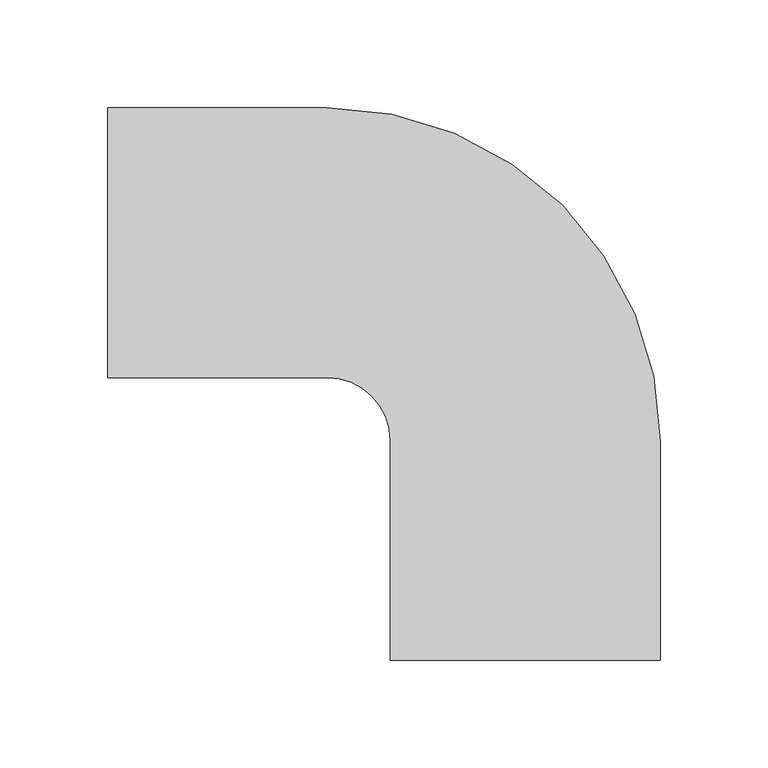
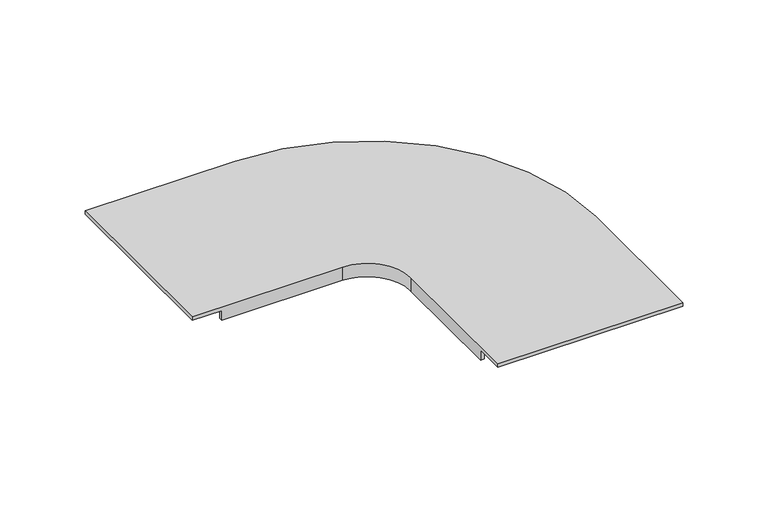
"""IFC4 building model written with IfcOpenShell, lengths in millimetres: cable carrier fitting geometry, CCT_Hyperline_FBTR-ELB90-CVR_Крышка на горизонтальный изгиб на 90°пластиковый : Крышка на горизонтальный изгиб на 90° пластиковый."""

import ifcopenshell
import ifcopenshell.guid

model = None  # the IFC model being written
_history = None  # IfcOwnerHistory: only IFC2X3 demands one
_inside = {}  # id of a spatial element -> (the spatial element, [elements in it])
_under = {}  # id of a project, library or spatial element -> (it, [spatial elements below it])
_declared = {}  # id of a project -> (the project, [libraries it declares])
_typed = {}  # id of a type object -> (the type object, [elements of that type])
_made_of = {}  # id of a material, layer set ... -> (it, [elements and type objects made of it])


def new_model(schema):
    """Start an empty IFC model of exactly this schema.

    Asked for "IFC4X3", IfcOpenShell would pick the latest addendum, in which some entities
    have other attributes; the version numbers below select the first issue.
    IFC2X3 requires an IfcOwnerHistory on every rooted entity: one is made here for all.
    """
    global model, _history
    if schema == "IFC4X3":
        model = ifcopenshell.file(schema_version=(4, 3, 0, 0))
    else:
        model = ifcopenshell.file(schema=schema)
    _inside.clear()
    _under.clear()
    _declared.clear()
    _typed.clear()
    _made_of.clear()
    _history = None
    if model.schema == "IFC2X3":
        org = make("IfcOrganization", Name="unknown")
        user = make(
            "IfcPersonAndOrganization",
            ThePerson=make("IfcPerson", FamilyName="unknown"),
            TheOrganization=org,
        )
        app = make(
            "IfcApplication",
            ApplicationDeveloper=org,
            Version="unknown",
            ApplicationFullName="unknown",
            ApplicationIdentifier="unknown",
        )
        _history = make(
            "IfcOwnerHistory",
            OwningUser=user,
            OwningApplication=app,
            ChangeAction="ADDED",
            CreationDate=0,
        )
    return model


def make(cls, **values):
    """One entity of the class cls with the attributes given. An attribute that is None is left unset."""
    return model.create_entity(
        cls, **{name: value for name, value in values.items() if value is not None}
    )


def rooted(cls, **values):
    """An entity with a GlobalId (a new one), such as an element, a storey or a relation."""
    return make(cls, GlobalId=ifcopenshell.guid.new(), OwnerHistory=_history, **values)


def si_unit(unit_type, name, prefix=None):
    """IfcSIUnit, for example si_unit("LENGTHUNIT", "METRE", prefix="MILLI")."""
    return make("IfcSIUnit", UnitType=unit_type, Prefix=prefix, Name=name)


def assignment(units):
    """IfcUnitAssignment: the units of a project."""
    return None if units is None else make("IfcUnitAssignment", Units=units)


def point(xyz):
    """IfcCartesianPoint."""
    return None if xyz is None else make("IfcCartesianPoint", Coordinates=xyz)


def direction(xyz):
    """IfcDirection."""
    return None if xyz is None else make("IfcDirection", DirectionRatios=xyz)


def frame(location, z_axis=None, x_axis=None):
    """IfcAxis2Placement3D, a coordinate frame: its origin and axes. An axis left out is left unset."""
    return make(
        "IfcAxis2Placement3D",
        Location=point(location),
        Axis=direction(z_axis),
        RefDirection=direction(x_axis),
    )


def origin():
    """The frame at (0, 0, 0) with its axes left unset."""
    return frame((0.0, 0.0, 0.0))


def place(relative_to, where):
    """IfcLocalPlacement: puts the frame where relative to a parent placement (None: the world)."""
    return make(
        "IfcLocalPlacement", PlacementRelTo=relative_to, RelativePlacement=where
    )


def context(
    kind, dimensions, precision=None, world=None, true_north=None, identifier=None
):
    """IfcGeometricRepresentationContext, for example the 3D "Model" context."""
    return make(
        "IfcGeometricRepresentationContext",
        ContextIdentifier=identifier,
        ContextType=kind,
        CoordinateSpaceDimension=dimensions,
        Precision=precision,
        WorldCoordinateSystem=world,
        TrueNorth=true_north,
    )


def project(units=None, contexts=None):
    """IfcProject with its units and contexts."""
    return rooted(
        "IfcProject",
        Name="project",
        RepresentationContexts=contexts,
        UnitsInContext=assignment(units),
    )


def spatial(cls, under=None, at=None, **own):
    """A site, building, storey or space (cls), placed at a placement, below another one or the project."""
    s = rooted(cls, ObjectPlacement=at, **own)
    if under is not None:
        _under.setdefault(under.id(), (under, []))[1].append(s)
    return s


def polyline(points):
    """IfcPolyline through the points."""
    return make("IfcPolyline", Points=[point(p) for p in points])


def circle_curve(where, radius):
    """IfcCircle in the frame where."""
    return make("IfcCircle", Position=where, Radius=radius)


def shape(context_of_items, identifier, shape_type, items):
    """IfcShapeRepresentation: the items that make up one representation, for example the "Body"."""
    return make(
        "IfcShapeRepresentation",
        ContextOfItems=context_of_items,
        RepresentationIdentifier=identifier,
        RepresentationType=shape_type,
        Items=items,
    )


def source(mapping_origin, context_of_items, identifier, shape_type, items):
    """IfcRepresentationMap: a shape defined once, which mapped items show again and again."""
    return make(
        "IfcRepresentationMap",
        MappingOrigin=mapping_origin,
        MappedRepresentation=shape(context_of_items, identifier, shape_type, items),
    )


def transform(
    local_origin,
    x_axis=None,
    y_axis=None,
    z_axis=None,
    scale=None,
    scale2=None,
    scale3=None,
    uniform=True,
):
    """IfcCartesianTransformationOperator3D, or its non-uniform kind. x_axis, y_axis, z_axis: its Axis1, 2, 3."""
    if uniform:
        return make(
            "IfcCartesianTransformationOperator3D",
            Axis1=direction(x_axis),
            Axis2=direction(y_axis),
            LocalOrigin=point(local_origin),
            Scale=scale,
            Axis3=direction(z_axis),
        )
    return make(
        "IfcCartesianTransformationOperator3DnonUniform",
        Axis1=direction(x_axis),
        Axis2=direction(y_axis),
        LocalOrigin=point(local_origin),
        Scale=scale,
        Axis3=direction(z_axis),
        Scale2=scale2,
        Scale3=scale3,
    )


def mapped(mapping_source, mapping_target):
    """IfcMappedItem: shows the shape of a source again, moved by a transform."""
    return make(
        "IfcMappedItem", MappingSource=mapping_source, MappingTarget=mapping_target
    )


def made_of(thing, what):
    """Note that an element or type object is made of a material, layer set ...; save() writes the relation."""
    if what is not None:
        _made_of.setdefault(what.id(), (what, []))[1].append(thing)
    return thing


def element(
    cls,
    number,
    at=None,
    inside=None,
    cuts=None,
    type_object=None,
    material=None,
    context=None,
    identifier="Body",
    shape_type=None,
    held_by="IfcProductDefinitionShape",
    body=None,
    shapes=None,
    **own,
):
    """One element of the class cls, such as IfcWall. Its Tag is "e" and its number.

    at: its placement. inside: the storey or other place that contains it. cuts: it is an
    opening in that element (IfcRelVoidsElement). A single representation is given by context,
    identifier, shape_type and body (its items); several are given by shapes. held_by: the class
    of the entity that holds the representations. save() writes the other relations.
    """
    e = rooted(cls, Tag="e%d" % number, ObjectPlacement=at, **own)
    if body is not None:
        shapes = [shape(context, identifier, shape_type, body)]
    if shapes is not None:
        e.Representation = make(held_by, Representations=shapes)
    if inside is not None:
        _inside.setdefault(inside.id(), (inside, []))[1].append(e)
    if cuts is not None:
        rooted(
            "IfcRelVoidsElement", RelatingBuildingElement=cuts, RelatedOpeningElement=e
        )
    if type_object is not None:
        _typed.setdefault(type_object.id(), (type_object, []))[1].append(e)
    return made_of(e, material)


def aggregate(whole, parts):
    """IfcRelAggregates: a whole, such as a stair, and the parts it consists of."""
    return rooted("IfcRelAggregates", RelatingObject=whole, RelatedObjects=parts)


def save(model, path):
    """Write the relations noted so far, then the file.

    IfcRelAggregates (storeys below a building ...), IfcRelContainedInSpatialStructure (elements
    in a storey), IfcRelDefinesByType, IfcRelAssociatesMaterial and IfcRelDeclares: one each for
    every whole, place, type object, material and project.
    """
    for whole, parts in _under.values():
        aggregate(whole, parts)
    for where, things in _inside.values():
        rooted(
            "IfcRelContainedInSpatialStructure",
            RelatedElements=things,
            RelatingStructure=where,
        )
    for kind, things in _typed.values():
        rooted("IfcRelDefinesByType", RelatedObjects=things, RelatingType=kind)
    for what, things in _made_of.values():
        rooted("IfcRelAssociatesMaterial", RelatedObjects=things, RelatingMaterial=what)
    for by, libraries in _declared.values():
        rooted("IfcRelDeclares", RelatingContext=by, RelatedDefinitions=libraries)
    model.write(path)


def plane_surface(at):
    """IfcPlane: the flat surface through the origin of the frame at, square to its z axis."""
    return make("IfcPlane", Position=at)


def cylinder_surface(at, radius):
    """IfcCylindricalSurface: all points at the distance radius from the z axis of the frame at."""
    return make("IfcCylindricalSurface", Position=at, Radius=radius)


def revolved_surface(curve, axis_point, axis_direction):
    """IfcSurfaceOfRevolution: the curve turned about the line through axis_point along axis_direction."""
    return make(
        "IfcSurfaceOfRevolution",
        SweptCurve=make("IfcArbitraryOpenProfileDef", ProfileType="CURVE", Curve=curve),
        AxisPosition=make("IfcAxis1Placement", Location=point(axis_point), Axis=direction(axis_direction)),
    )


def advanced_brep(points, edges, surfaces, faces):
    """IfcAdvancedBrep: a solid bounded by faces that lie on surfaces and meet in shared edges.

    An edge is (start, end): straight between two places in points (the first is 0);
    or (start, end, curve); or (start, end, curve, False) where it runs against its curve.
    A face is (place in surfaces, loops), or (place, loops, False) where it looks against
    its surface's normal. A loop lists edges by number (the first is 1), with a minus sign
    where the edge is run from its end to its start. The first loop is the outer one.
    """
    corners = [point(p) for p in points]
    vertices = [make("IfcVertexPoint", VertexGeometry=c) for c in corners]
    made = []
    for start, end, *more in edges:
        made.append(
            make(
                "IfcEdgeCurve",
                EdgeStart=vertices[start],
                EdgeEnd=vertices[end],
                EdgeGeometry=more[0] if more else make("IfcPolyline", Points=[corners[start], corners[end]]),
                SameSense=more[1] if len(more) > 1 else True,
            )
        )
    hull = []
    for where, loops, *sense in faces:
        bounds = []
        for j, loop in enumerate(loops):
            ring = [make("IfcOrientedEdge", EdgeElement=made[abs(k) - 1], Orientation=k > 0) for k in loop]
            bounds.append(
                make(
                    "IfcFaceOuterBound" if j == 0 else "IfcFaceBound",
                    Bound=make("IfcEdgeLoop", EdgeList=ring),
                    Orientation=True,
                )
            )
        hull.append(make("IfcAdvancedFace", Bounds=bounds, FaceSurface=surfaces[where], SameSense=sense[0] if sense else True))
    return make("IfcAdvancedBrep", Outer=make("IfcClosedShell", CfsFaces=hull))


def cable_carrier_fitting_16fe6e49(model_context):
    return source(origin(), model_context, "Body", "AdvancedBrep", [
        advanced_brep(
        [(-103.2249258, 100.0558071, 52.54), (-103.2249258, 225.1358071, 52.54), (-103.2249258, 225.1358071, 50.0), (-103.2249258, 100.0558071, 50.0), (-1.7249258, 100.0558071, 52.54), (27.7350742, 70.5958071, 52.54), (27.7350742, -30.9041929, 52.54), (152.8150742, -30.9041929, 52.54), (152.8150742, 70.5958071, 52.54), (-1.7249258, 225.1358071, 52.54), (-1.7249258, 222.5958071, 50.0), (150.2750742, 70.5958071, 50.0), (150.2750742, -10.9041929, 50.0), (152.8150742, -10.9041929, 50.0), (152.8150742, -30.9041929, 50.0), (27.7350742, -30.9041929, 50.0), (27.7350742, -10.9041929, 50.0), (30.2750742, -10.9041929, 50.0), (30.2750742, 70.5958071, 50.0), (-1.7249258, 102.5958071, 50.0), (-83.2249258, 102.5958071, 50.0), (-83.2249258, 100.0558071, 50.0), (-83.2249258, 225.1358071, 50.0), (-83.2249258, 222.5958071, 50.0), (-1.7249258, 102.5958071, 43.0), (-83.2249258, 102.5958071, 43.0), (30.2750742, 70.5958071, 43.0), (30.2750742, -10.9041929, 43.0), (27.7350742, -10.9041929, 43.0), (27.7350742, 70.5958071, 43.0), (-1.7249258, 100.0558071, 43.0), (-83.2249258, 100.0558071, 43.0), (-1.7249258, 225.1358071, 43.0), (-83.2249258, 225.1358071, 43.0), (152.8150742, 70.5958071, 43.0), (152.8150742, -10.9041929, 43.0), (150.2750742, -10.9041929, 43.0), (150.2750742, 70.5958071, 43.0), (-1.7249258, 222.5958071, 43.0), (-83.2249258, 222.5958071, 43.0)],
        [
            (0, 1),
            (1, 2),
            (2, 3),
            (3, 0),
            (0, 4),
            (4, 5, circle_curve(frame((-1.7249258, 70.5958071, 52.54), z_axis=(0.0, 0.0, -1.0), x_axis=(0.0, 1.0, 0.0)), 29.46)),
            (5, 6),
            (6, 7),
            (7, 8),
            (8, 9, circle_curve(frame((-1.7249258, 70.5958071, 52.54), z_axis=(0.0, 0.0, 1.0), x_axis=(0.0, 1.0, 0.0)), 154.54)),
            (9, 1),
            (10, 11, circle_curve(frame((-1.7249258, 70.5958071, 50.0), z_axis=(0.0, 0.0, -1.0), x_axis=(0.0, 1.0, 0.0)), 152.0)),
            (11, 12),
            (12, 13),
            (13, 14),
            (14, 15),
            (15, 16),
            (16, 17),
            (17, 18),
            (18, 19, circle_curve(frame((-1.7249258, 70.5958071, 50.0), z_axis=(0.0, 0.0, 1.0), x_axis=(0.0, 1.0, 0.0)), 32.0)),
            (19, 20),
            (20, 21),
            (21, 3),
            (2, 22),
            (22, 23),
            (23, 10),
            (19, 24),
            (24, 25),
            (25, 20),
            (24, 26, circle_curve(frame((-1.7249258, 70.5958071, 43.0), z_axis=(0.0, 0.0, -1.0), x_axis=(0.0, 1.0, 0.0)), 32.0)),
            (26, 27),
            (27, 28),
            (28, 29),
            (29, 30, circle_curve(frame((-1.7249258, 70.5958071, 43.0), z_axis=(0.0, 0.0, 1.0), x_axis=(0.0, 1.0, 0.0)), 29.46)),
            (30, 31),
            (31, 25),
            (21, 31),
            (30, 4),
            (18, 26),
            (29, 5),
            (6, 15),
            (14, 7),
            (17, 27),
            (28, 16),
            (9, 32),
            (32, 33),
            (33, 22),
            (32, 34, circle_curve(frame((-1.7249258, 70.5958071, 43.0), z_axis=(0.0, 0.0, -1.0), x_axis=(0.0, 1.0, 0.0)), 154.54)),
            (34, 35),
            (35, 36),
            (36, 37),
            (37, 38, circle_curve(frame((-1.7249258, 70.5958071, 43.0), z_axis=(0.0, 0.0, 1.0), x_axis=(0.0, 1.0, 0.0)), 152.0)),
            (38, 39),
            (39, 33),
            (38, 10),
            (23, 39),
            (8, 34),
            (37, 11),
            (13, 35),
            (36, 12),
        ],
        [
            plane_surface(frame((-103.2249258, 102.5958071, 25.0), z_axis=(-1.0, 0.0, 0.0), x_axis=(0.0, 0.0, 1.0))),
            plane_surface(frame((-103.2249258, 100.0558071, 52.54), z_axis=(0.0, 0.0, 1.0), x_axis=(1.0, 0.0, 0.0))),
            plane_surface(frame((-103.2249258, 222.5958071, 50.0), z_axis=(0.0, 0.0, -1.0), x_axis=(1.0, 0.0, 0.0))),
            plane_surface(frame((-103.2249258, 102.5958071, 50.0), z_axis=(0.0, 1.0, 0.0), x_axis=(1.0, 0.0, 0.0))),
            plane_surface(frame((-103.2249258, 102.5958071, 43.0), z_axis=(0.0, 0.0, -1.0), x_axis=(1.0, 0.0, 0.0))),
            plane_surface(frame((-103.2249258, 100.0558071, 43.0), z_axis=(0.0, -1.0, 0.0), x_axis=(1.0, 0.0, 0.0))),
            cylinder_surface(frame((-1.7249258, 70.5958071, 25.0), z_axis=(0.0, 0.0, -1.0), x_axis=(0.0, 1.0, 0.0)), 32.0),
            revolved_surface(polyline([(-1.7249258, 100.05580710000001, 43.0), (-1.7249258, 100.05580710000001, 52.54)]), (-1.7249258, 70.5958071, 25.0), (0.0, 0.0, -1.0)),
            plane_surface(frame((30.2750742, -30.9041929, 25.0), z_axis=(0.0, -1.0, 0.0), x_axis=(0.0, 0.0, 1.0))),
            plane_surface(frame((30.2750742, 70.5958071, 50.0), z_axis=(1.0, 0.0, 0.0), x_axis=(0.0, -1.0, 0.0))),
            plane_surface(frame((27.7350742, 70.5958071, 43.0), z_axis=(-1.0, 0.0, 0.0), x_axis=(0.0, -1.0, 0.0))),
            plane_surface(frame((-103.2249258, 225.1358071, 52.54), z_axis=(0.0, 1.0, 0.0), x_axis=(1.0, 0.0, 0.0))),
            plane_surface(frame((-103.2249258, 225.1358071, 43.0), z_axis=(0.0, 0.0, -1.0), x_axis=(1.0, 0.0, 0.0))),
            plane_surface(frame((-103.2249258, 222.5958071, 43.0), z_axis=(0.0, -1.0, 0.0), x_axis=(1.0, 0.0, 0.0))),
            cylinder_surface(frame((-1.7249258, 70.5958071, 25.0), z_axis=(0.0, 0.0, -1.0), x_axis=(0.0, 1.0, 0.0)), 154.54),
            revolved_surface(polyline([(-1.7249258, 222.5958071, 43.0), (-1.7249258, 222.5958071, 50.0)]), (-1.7249258, 70.5958071, 25.0), (0.0, 0.0, -1.0)),
            plane_surface(frame((152.8150742, 70.5958071, 52.54), z_axis=(1.0, 0.0, 0.0), x_axis=(0.0, -1.0, 0.0))),
            plane_surface(frame((150.2750742, 70.5958071, 43.0), z_axis=(-1.0, 0.0, 0.0), x_axis=(0.0, -1.0, 0.0))),
            plane_surface(frame((-83.2249258, -225.5092401, 43.0), z_axis=(-1.0, 0.0, 0.0), x_axis=(0.0, 1.0, 0.0))),
            plane_surface(frame((-218.796213, -10.9041929, 50.0), z_axis=(0.0, -1.0, 0.0), x_axis=(1.0, 0.0, 0.0))),
        ],
        [
            (0, [[1, 2, 3, 4]]),
            (1, [[-1, 5, 6, 7, 8, 9, 10, 11]]),
            (2, [[12, 13, 14, 15, 16, 17, 18, 19, 20, 21, 22, 23, -3, 24, 25, 26]]),
            (3, [[27, 28, 29, -21]]),
            (4, [[30, 31, 32, 33, 34, 35, 36, -28]]),
            (5, [[-5, -4, -23, 37, -35, 38]]),
            (6, [[-20, 39, -30, -27]]),
            (7, [[-6, -38, -34, 40]]),
            (8, [[-8, 41, -16, 42]]),
            (9, [[-39, -19, 43, -31]]),
            (10, [[-7, -40, -33, 44, -17, -41]]),
            (11, [[-11, 45, 46, 47, -24, -2]]),
            (12, [[48, 49, 50, 51, 52, 53, 54, -46]]),
            (13, [[55, -26, 56, -53]]),
            (14, [[-10, 57, -48, -45]]),
            (15, [[-12, -55, -52, 58]]),
            (16, [[-9, -42, -15, 59, -49, -57]]),
            (17, [[-58, -51, 60, -13]]),
            (18, [[-22, -29, -36, -37]]),
            (18, [[-25, -47, -54, -56]]),
            (19, [[-14, -60, -50, -59]]),
            (19, [[-18, -44, -32, -43]]),
        ],
    ),
    ])


if __name__ == "__main__":
    model = new_model("IFC4")
    model_context = context("Model", 3, world=origin())
    ifc_project = project(units=[si_unit("LENGTHUNIT", "METRE", prefix="MILLI")], contexts=[model_context])
    site = spatial("IfcSite", under=ifc_project)
    building = spatial("IfcBuilding", under=site)
    placement = place(None, origin())
    cable_carrier_fitting_shape = cable_carrier_fitting_16fe6e49(model_context)
    element("IfcCableCarrierFitting", 1, ObjectType="CCT_Hyperline_FBTR-ELB90-CVR_Крышка на горизонтальный изгиб на 90°пластиковый : Крышка на горизонтальный изгиб на 90° пластиковый", at=placement, inside=building, context=model_context, shape_type="MappedRepresentation", body=[
        mapped(cable_carrier_fitting_shape, transform((0.0, 0.0, 0.0), x_axis=(1.0, 0.0, 0.0), y_axis=(0.0, 1.0, 0.0), z_axis=(0.0, 0.0, 1.0))),
    ])
    save(model, "model.ifc")
